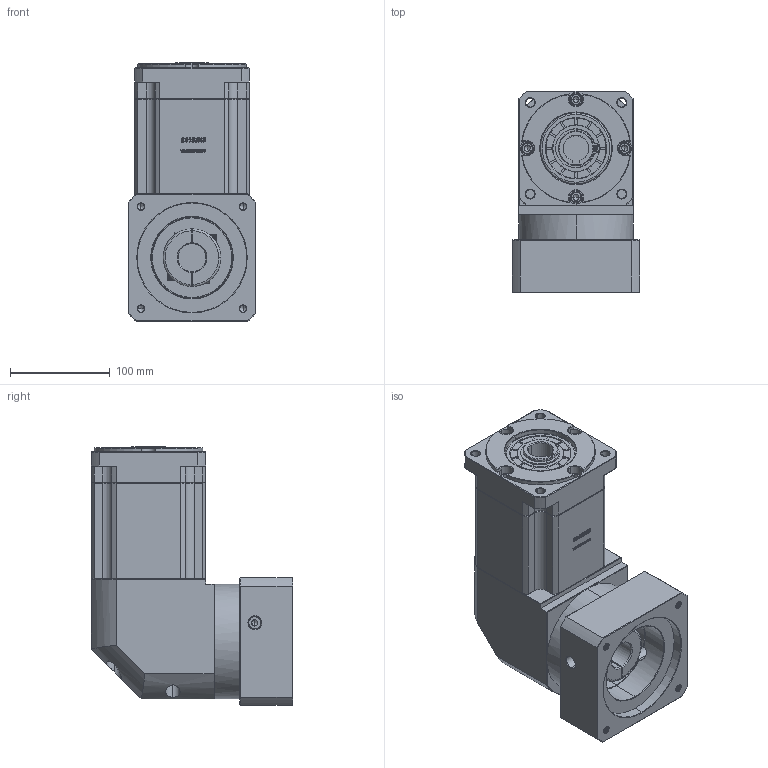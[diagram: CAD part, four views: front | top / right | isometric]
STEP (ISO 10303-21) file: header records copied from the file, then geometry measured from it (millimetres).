
FILE_DESCRIPTION (( 'STEP AP214' ), '1' );
FILE_NAME ('ZBR115A-K25-L3-28-110-145-M8.step', '2023-03-03T05:09:45', ( '' ), ( 'Microsoft' ), 'SwSTEP 2.0', 'SolidWorks 2016', '' );
FILE_SCHEMA (( 'AUTOMOTIVE_DESIGN' ));
Length unit declared in the file: millimetre
Products named in the file (1): ZBR115A-K25-L3-28-110-145-M8
Bounding box: 128 x 202.4 x 260 mm (x, y, z)
Volume: 3762035.5 mm3; surface area: 283665.2 mm2
Topology: 6 solids, 6 shells, 2928 faces, 7770 edges, 4985 vertices
Faces by surface type: plane 1553, bspline 598, cylinder 406, cone 363, torus 8
Entity records: 156417 total; most frequent: CARTESIAN_POINT 56171, ORIENTED_EDGE 15484, DIRECTION 11744, EDGE_CURVE 7742, LINE 5258, VECTOR 5258, VERTEX_POINT 4985, AXIS2_PLACEMENT_3D 3243
